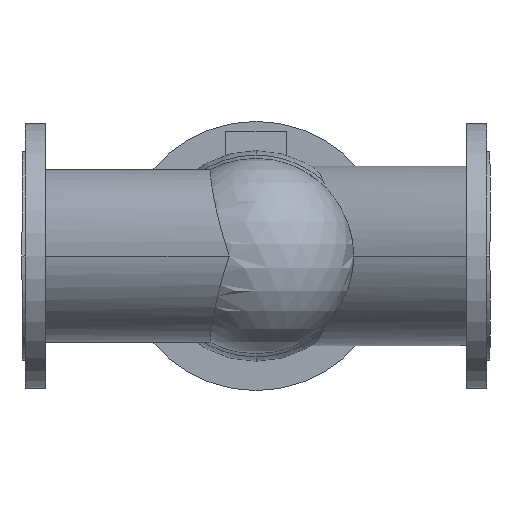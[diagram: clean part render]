
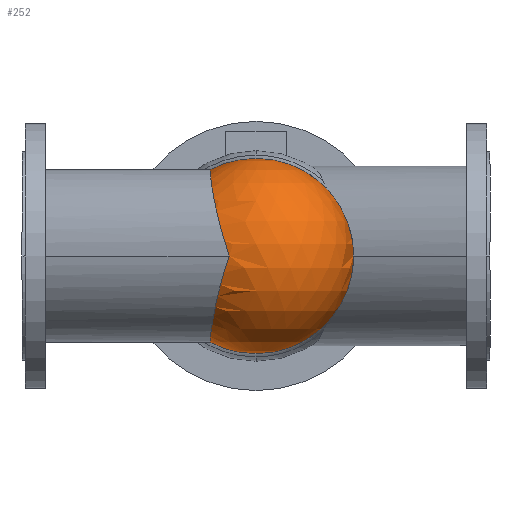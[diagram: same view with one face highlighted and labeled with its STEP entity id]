
A CAD part, front view. The second image highlights one B-rep face of the part: STEP entity #252.
In plain terms, the highlighted spherical face has radius 125 mm.
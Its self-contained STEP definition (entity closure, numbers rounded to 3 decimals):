
#252 = ADVANCED_FACE( '', ( #693 ), #694, .T. );
#693 = FACE_OUTER_BOUND( '', #1207, .T. );
#694 = SPHERICAL_SURFACE( '', #1208, 125. );
#1207 = EDGE_LOOP( '', ( #2802, #2803, #2804, #2805, #2806, #2807 ) );
#1208 = AXIS2_PLACEMENT_3D( '', #2808, #2809, #2810 );
#2802 = ORIENTED_EDGE( '', *, *, #3237, .F. );
#2803 = ORIENTED_EDGE( '', *, *, #3312, .F. );
#2804 = ORIENTED_EDGE( '', *, *, #3311, .F. );
#2805 = ORIENTED_EDGE( '', *, *, #3721, .F. );
#2806 = ORIENTED_EDGE( '', *, *, #3722, .F. );
#2807 = ORIENTED_EDGE( '', *, *, #3723, .F. );
#2808 = CARTESIAN_POINT( '', ( 300., -61.9, 0. ) );
#2809 = DIRECTION( '', ( 0., 0., 1. ) );
#2810 = DIRECTION( '', ( 1., 0., 0. ) );
#3237 = EDGE_CURVE( '', #3892, #3880, #3894, .T. );
#3311 = EDGE_CURVE( '', #4038, #4040, #4041, .T. );
#3312 = EDGE_CURVE( '', #4040, #3892, #4042, .T. );
#3721 = EDGE_CURVE( '', #4702, #4038, #4703, .T. );
#3722 = EDGE_CURVE( '', #4704, #4702, #4705, .T. );
#3723 = EDGE_CURVE( '', #3880, #4704, #4706, .T. );
#3880 = VERTEX_POINT( '', #4895 );
#3892 = VERTEX_POINT( '', #4968 );
#3894 = B_SPLINE_CURVE_WITH_KNOTS( '', 3, ( #4987, #4988, #4989, #4990, #4991, #4992, #4993, #4994, #4995, #4996, #4997, #4998, #4999, #5000, #5001, #5002, #5003, #5004, #5005, #5006, #5007, #5008, #5009, #5010, #5011, #5012, #5013, #5014, #5015, #5016, #5017, #5018, #5019, #5020, #5021, #5022, #5023, #5024 ), .UNSPECIFIED., .F., .F., ( 4, 2, 2, 2, 2, 2, 2, 2, 2, 2, 2, 2, 2, 2, 2, 2, 2, 2, 4 ), ( 513.758, 522.951, 533.747, 544.542, 555.338, 566.134, 576.93, 587.725, 598.521, 609.589, 620.657, 631.725, 642.792, 653.86, 664.928, 675.996, 681.53, 687.064, 687.086 ), .UNSPECIFIED. );
#4038 = VERTEX_POINT( '', #5317 );
#4040 = VERTEX_POINT( '', #5320 );
#4041 = CIRCLE( '', #5321, 125. );
#4042 = CIRCLE( '', #5322, 125. );
#4702 = VERTEX_POINT( '', #6507 );
#4703 = CIRCLE( '', #6508, 125. );
#4704 = VERTEX_POINT( '', #6509 );
#4705 = CIRCLE( '', #6510, 125. );
#4706 = B_SPLINE_CURVE_WITH_KNOTS( '', 3, ( #6511, #6512, #6513, #6514, #6515, #6516, #6517, #6518, #6519, #6520, #6521, #6522, #6523, #6524, #6525, #6526, #6527, #6528, #6529, #6530, #6531, #6532, #6533, #6534, #6535, #6536, #6537, #6538, #6539, #6540, #6541, #6542, #6543, #6544, #6545, #6546, #6547, #6548 ), .UNSPECIFIED., .F., .F., ( 4, 2, 2, 2, 2, 2, 2, 2, 2, 2, 2, 2, 2, 2, 2, 2, 2, 2, 4 ), ( 0., 0.022, 5.556, 11.09, 22.158, 33.225, 44.293, 55.361, 66.429, 77.497, 88.565, 99.36, 110.156, 120.952, 131.747, 142.543, 153.339, 164.135, 173.327 ), .UNSPECIFIED. );
#4895 = CARTESIAN_POINT( '', ( 265.773, -182.123, 0. ) );
#4968 = CARTESIAN_POINT( '', ( 241.742, -61.9, -110.594 ) );
#4987 = CARTESIAN_POINT( '', ( 241.742, -61.9, -110.594 ) );
#4988 = CARTESIAN_POINT( '', ( 241.663, -64.978, -110.552 ) );
#4989 = CARTESIAN_POINT( '', ( 241.597, -68.099, -110.389 ) );
#4990 = CARTESIAN_POINT( '', ( 241.493, -74.929, -109.754 ) );
#4991 = CARTESIAN_POINT( '', ( 241.461, -78.647, -109.234 ) );
#4992 = CARTESIAN_POINT( '', ( 241.456, -86.07, -107.831 ) );
#4993 = CARTESIAN_POINT( '', ( 241.482, -89.777, -106.949 ) );
#4994 = CARTESIAN_POINT( '', ( 241.603, -97.116, -104.829 ) );
#4995 = CARTESIAN_POINT( '', ( 241.696, -100.747, -103.592 ) );
#4996 = CARTESIAN_POINT( '', ( 241.957, -107.874, -100.782 ) );
#4997 = CARTESIAN_POINT( '', ( 242.124, -111.372, -99.209 ) );
#4998 = CARTESIAN_POINT( '', ( 242.536, -118.182, -95.759 ) );
#4999 = CARTESIAN_POINT( '', ( 242.781, -121.493, -93.882 ) );
#5000 = CARTESIAN_POINT( '', ( 243.348, -127.88, -89.869 ) );
#5001 = CARTESIAN_POINT( '', ( 243.67, -130.955, -87.733 ) );
#5002 = CARTESIAN_POINT( '', ( 244.39, -136.828, -83.259 ) );
#5003 = CARTESIAN_POINT( '', ( 244.786, -139.625, -80.921 ) );
#5004 = CARTESIAN_POINT( '', ( 245.657, -144.977, -76.051 ) );
#5005 = CARTESIAN_POINT( '', ( 246.149, -147.621, -73.426 ) );
#5006 = CARTESIAN_POINT( '', ( 247.239, -152.713, -67.888 ) );
#5007 = CARTESIAN_POINT( '', ( 247.837, -155.16, -64.975 ) );
#5008 = CARTESIAN_POINT( '', ( 249.145, -159.799, -58.904 ) );
#5009 = CARTESIAN_POINT( '', ( 249.854, -161.991, -55.745 ) );
#5010 = CARTESIAN_POINT( '', ( 251.381, -166.077, -49.232 ) );
#5011 = CARTESIAN_POINT( '', ( 252.2, -167.97, -45.879 ) );
#5012 = CARTESIAN_POINT( '', ( 253.943, -171.425, -39.034 ) );
#5013 = CARTESIAN_POINT( '', ( 254.869, -172.988, -35.54 ) );
#5014 = CARTESIAN_POINT( '', ( 256.818, -175.764, -28.471 ) );
#5015 = CARTESIAN_POINT( '', ( 257.843, -176.978, -24.897 ) );
#5016 = CARTESIAN_POINT( '', ( 259.978, -179.048, -17.735 ) );
#5017 = CARTESIAN_POINT( '', ( 261.089, -179.905, -14.147 ) );
#5018 = CARTESIAN_POINT( '', ( 262.808, -180.929, -8.806 ) );
#5019 = CARTESIAN_POINT( '', ( 263.39, -181.226, -7.032 ) );
#5020 = CARTESIAN_POINT( '', ( 264.568, -181.736, -3.508 ) );
#5021 = CARTESIAN_POINT( '', ( 265.164, -181.949, -1.757 ) );
#5022 = CARTESIAN_POINT( '', ( 265.768, -182.121, -0.015 ) );
#5023 = CARTESIAN_POINT( '', ( 265.771, -182.122, -0.007 ) );
#5024 = CARTESIAN_POINT( '', ( 265.773, -182.123, 0. ) );
#5317 = CARTESIAN_POINT( '', ( 425., -61.9, 0. ) );
#5320 = CARTESIAN_POINT( '', ( 300., -61.9, -125. ) );
#5321 = AXIS2_PLACEMENT_3D( '', #6947, #6948, #6949 );
#5322 = AXIS2_PLACEMENT_3D( '', #6950, #6951, #6952 );
#6507 = CARTESIAN_POINT( '', ( 300., -61.9, 125. ) );
#6508 = AXIS2_PLACEMENT_3D( '', #7728, #7729, #7730 );
#6509 = CARTESIAN_POINT( '', ( 241.742, -61.9, 110.594 ) );
#6510 = AXIS2_PLACEMENT_3D( '', #7731, #7732, #7733 );
#6511 = CARTESIAN_POINT( '', ( 265.773, -182.123, 0. ) );
#6512 = CARTESIAN_POINT( '', ( 265.771, -182.122, 0.007 ) );
#6513 = CARTESIAN_POINT( '', ( 265.768, -182.121, 0.015 ) );
#6514 = CARTESIAN_POINT( '', ( 265.164, -181.949, 1.757 ) );
#6515 = CARTESIAN_POINT( '', ( 264.568, -181.736, 3.508 ) );
#6516 = CARTESIAN_POINT( '', ( 263.39, -181.226, 7.032 ) );
#6517 = CARTESIAN_POINT( '', ( 262.808, -180.929, 8.806 ) );
#6518 = CARTESIAN_POINT( '', ( 261.089, -179.905, 14.147 ) );
#6519 = CARTESIAN_POINT( '', ( 259.978, -179.048, 17.735 ) );
#6520 = CARTESIAN_POINT( '', ( 257.843, -176.978, 24.897 ) );
#6521 = CARTESIAN_POINT( '', ( 256.818, -175.764, 28.471 ) );
#6522 = CARTESIAN_POINT( '', ( 254.869, -172.988, 35.54 ) );
#6523 = CARTESIAN_POINT( '', ( 253.943, -171.425, 39.034 ) );
#6524 = CARTESIAN_POINT( '', ( 252.2, -167.97, 45.879 ) );
#6525 = CARTESIAN_POINT( '', ( 251.381, -166.077, 49.232 ) );
#6526 = CARTESIAN_POINT( '', ( 249.854, -161.991, 55.745 ) );
#6527 = CARTESIAN_POINT( '', ( 249.145, -159.799, 58.904 ) );
#6528 = CARTESIAN_POINT( '', ( 247.837, -155.16, 64.975 ) );
#6529 = CARTESIAN_POINT( '', ( 247.239, -152.713, 67.888 ) );
#6530 = CARTESIAN_POINT( '', ( 246.149, -147.621, 73.426 ) );
#6531 = CARTESIAN_POINT( '', ( 245.657, -144.977, 76.051 ) );
#6532 = CARTESIAN_POINT( '', ( 244.786, -139.625, 80.921 ) );
#6533 = CARTESIAN_POINT( '', ( 244.39, -136.828, 83.259 ) );
#6534 = CARTESIAN_POINT( '', ( 243.67, -130.955, 87.733 ) );
#6535 = CARTESIAN_POINT( '', ( 243.348, -127.88, 89.869 ) );
#6536 = CARTESIAN_POINT( '', ( 242.781, -121.493, 93.882 ) );
#6537 = CARTESIAN_POINT( '', ( 242.536, -118.182, 95.759 ) );
#6538 = CARTESIAN_POINT( '', ( 242.124, -111.372, 99.209 ) );
#6539 = CARTESIAN_POINT( '', ( 241.957, -107.874, 100.782 ) );
#6540 = CARTESIAN_POINT( '', ( 241.696, -100.747, 103.592 ) );
#6541 = CARTESIAN_POINT( '', ( 241.603, -97.116, 104.829 ) );
#6542 = CARTESIAN_POINT( '', ( 241.482, -89.777, 106.949 ) );
#6543 = CARTESIAN_POINT( '', ( 241.456, -86.07, 107.831 ) );
#6544 = CARTESIAN_POINT( '', ( 241.461, -78.647, 109.234 ) );
#6545 = CARTESIAN_POINT( '', ( 241.493, -74.929, 109.754 ) );
#6546 = CARTESIAN_POINT( '', ( 241.597, -68.099, 110.389 ) );
#6547 = CARTESIAN_POINT( '', ( 241.663, -64.978, 110.552 ) );
#6548 = CARTESIAN_POINT( '', ( 241.742, -61.9, 110.594 ) );
#6947 = CARTESIAN_POINT( '', ( 300., -61.9, 0. ) );
#6948 = DIRECTION( '', ( 0., 1., 0. ) );
#6949 = DIRECTION( '', ( 1., 0., 0. ) );
#6950 = CARTESIAN_POINT( '', ( 300., -61.9, 0. ) );
#6951 = DIRECTION( '', ( 0., 1., 0. ) );
#6952 = DIRECTION( '', ( 1., 0., 0. ) );
#7728 = CARTESIAN_POINT( '', ( 300., -61.9, 0. ) );
#7729 = DIRECTION( '', ( 0., 1., 0. ) );
#7730 = DIRECTION( '', ( 1., 0., 0. ) );
#7731 = CARTESIAN_POINT( '', ( 300., -61.9, 0. ) );
#7732 = DIRECTION( '', ( 0., 1., 0. ) );
#7733 = DIRECTION( '', ( 1., 0., 0. ) );
